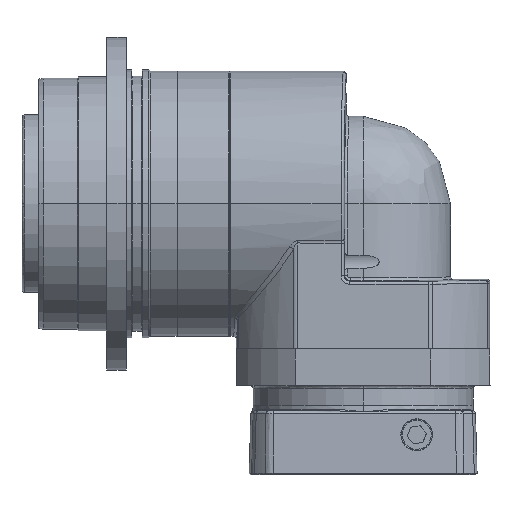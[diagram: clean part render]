
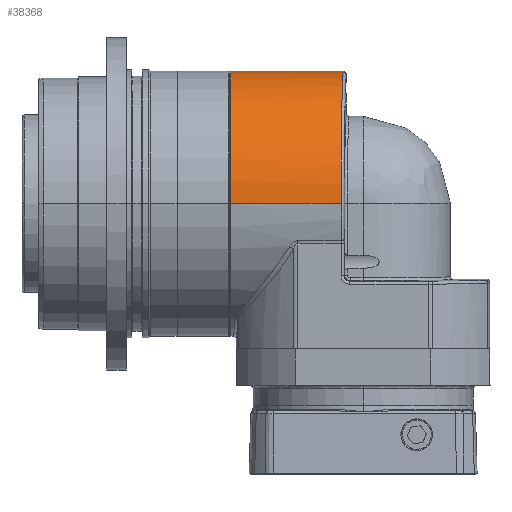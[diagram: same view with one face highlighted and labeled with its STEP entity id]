
A CAD part, top view. The second image highlights one B-rep face of the part: STEP entity #38368.
In plain terms, the highlighted cylindrical face has radius 47 mm (diameter 94 mm), a partial arc.
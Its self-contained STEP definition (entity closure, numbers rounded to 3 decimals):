
#207 = CARTESIAN_POINT ( 'NONE',  ( -28.432, 37.425, 307.64 ) ) ;
#696 = VERTEX_POINT ( 'NONE', #39823 ) ;
#833 = CARTESIAN_POINT ( 'NONE',  ( -46.608, 6.945, 307.119 ) ) ;
#868 = AXIS2_PLACEMENT_3D ( 'NONE', #52111, #47663, #3764 ) ;
#1137 = CARTESIAN_POINT ( 'NONE',  ( -19.013, 42.976, 307.734 ) ) ;
#2809 = VERTEX_POINT ( 'NONE', #42092 ) ;
#3163 = VERTEX_POINT ( 'NONE', #21685 ) ;
#3764 = DIRECTION ( 'NONE',  ( 0., 1., 0. ) ) ;
#4929 = CARTESIAN_POINT ( 'NONE',  ( 0., 46.997, 307.803 ) ) ;
#5460 = CARTESIAN_POINT ( 'NONE',  ( -34.243, -33.013, 307.564 ) ) ;
#5778 = AXIS2_PLACEMENT_3D ( 'NONE', #30676, #49937, #6649 ) ;
#5788 = EDGE_CURVE ( 'NONE', #696, #3163, #47246, .T. ) ;
#6649 = DIRECTION ( 'NONE',  ( 0., 1., 0. ) ) ;
#7909 = LINE ( 'NONE', #57212, #42192 ) ;
#9012 = CARTESIAN_POINT ( 'NONE',  ( 0., -47., 347. ) ) ;
#9566 = CARTESIAN_POINT ( 'NONE',  ( -39.009, -27.216, 307.465 ) ) ;
#9873 = CARTESIAN_POINT ( 'NONE',  ( 0., -46.997, 307.802 ) ) ;
#10913 = CARTESIAN_POINT ( 'NONE',  ( -25.523, 39.635, 307.677 ) ) ;
#11221 = CARTESIAN_POINT ( 'NONE',  ( -12.162, 45.546, 307.778 ) ) ;
#11268 = ORIENTED_EDGE ( 'NONE', *, *, #38718, .F. ) ;
#11376 = FACE_OUTER_BOUND ( 'NONE', #56641, .T. ) ;
#13501 = ORIENTED_EDGE ( 'NONE', *, *, #44721, .F. ) ;
#14606 = CARTESIAN_POINT ( 'NONE',  ( -46.999, -7.129, 307.122 ) ) ;
#15025 = CARTESIAN_POINT ( 'NONE',  ( -45.845, 10.332, 307.177 ) ) ;
#15344 = CARTESIAN_POINT ( 'NONE',  ( -38.624, 27.018, 307.462 ) ) ;
#18806 = LINE ( 'NONE', #9012, #27216 ) ;
#19275 = CARTESIAN_POINT ( 'NONE',  ( 0., -46.997, 307.802 ) ) ;
#19344 = CARTESIAN_POINT ( 'NONE',  ( -22.603, -41.851, 307.715 ) ) ;
#20089 = CARTESIAN_POINT ( 'NONE',  ( -42.222, 20.646, 307.353 ) ) ;
#20605 = CARTESIAN_POINT ( 'NONE',  ( -5.734, -46.737, 307.799 ) ) ;
#21178 = CYLINDRICAL_SURFACE ( 'NONE', #5778, 47. ) ;
#21685 = CARTESIAN_POINT ( 'NONE',  ( 0., -47., 347. ) ) ;
#23692 = VERTEX_POINT ( 'NONE', #4929 ) ;
#23779 = ORIENTED_EDGE ( 'NONE', *, *, #40684, .T. ) ;
#24536 = CARTESIAN_POINT ( 'NONE',  ( -2.873, 46.996, 307.803 ) ) ;
#24731 = CARTESIAN_POINT ( 'NONE',  ( -15.739, -44.885, 307.767 ) ) ;
#24849 = CARTESIAN_POINT ( 'NONE',  ( -47., 0., 307. ) ) ;
#27214 = DIRECTION ( 'NONE',  ( 0., 0., -1. ) ) ;
#27216 = VECTOR ( 'NONE', #62133, 1000. ) ;
#28870 = CARTESIAN_POINT ( 'NONE',  ( -47., 0., 307. ) ) ;
#29176 = CARTESIAN_POINT ( 'NONE',  ( -2.867, -46.996, 307.803 ) ) ;
#29292 = CARTESIAN_POINT ( 'NONE',  ( -40.618, 23.928, 307.409 ) ) ;
#30218 = CARTESIAN_POINT ( 'NONE',  ( -15.673, 44.454, 307.76 ) ) ;
#30676 = CARTESIAN_POINT ( 'NONE',  ( 0., 0., 347. ) ) ;
#33189 = ORIENTED_EDGE ( 'NONE', *, *, #41989, .F. ) ;
#34021 = CARTESIAN_POINT ( 'NONE',  ( 0., 46.997, 307.803 ) ) ;
#34325 = CARTESIAN_POINT ( 'NONE',  ( -22.354, 41.498, 307.709 ) ) ;
#38368 = ADVANCED_FACE ( 'NONE', ( #11376 ), #21178, .T. ) ;
#38718 = EDGE_CURVE ( 'NONE', #2809, #23692, #55279, .T. ) ;
#38729 = CARTESIAN_POINT ( 'NONE',  ( -33.986, 32.661, 307.558 ) ) ;
#39823 = CARTESIAN_POINT ( 'NONE',  ( 0., 47., 347. ) ) ;
#40684 = EDGE_CURVE ( 'NONE', #696, #23692, #7909, .T. ) ;
#41989 = EDGE_CURVE ( 'NONE', #3163, #49971, #18806, .T. ) ;
#42092 = CARTESIAN_POINT ( 'NONE',  ( -47., 0., 307. ) ) ;
#42192 = VECTOR ( 'NONE', #27214, 1000. ) ;
#43461 = CARTESIAN_POINT ( 'NONE',  ( -45.042, 13.895, 307.238 ) ) ;
#43782 = CARTESIAN_POINT ( 'NONE',  ( -43.827, 17.365, 307.297 ) ) ;
#44721 = EDGE_CURVE ( 'NONE', #49971, #2809, #56323, .T. ) ;
#47246 = CIRCLE ( 'NONE', #868, 47. ) ;
#47663 = DIRECTION ( 'NONE',  ( 0., 0., 1. ) ) ;
#48733 = CARTESIAN_POINT ( 'NONE',  ( -45.351, -14.249, 307.244 ) ) ;
#48848 = CARTESIAN_POINT ( 'NONE',  ( -31.341, 35.215, 307.602 ) ) ;
#49474 = CARTESIAN_POINT ( 'NONE',  ( -5.746, 46.736, 307.799 ) ) ;
#49937 = DIRECTION ( 'NONE',  ( 0., 0., -1. ) ) ;
#49971 = VERTEX_POINT ( 'NONE', #19275 ) ;
#52111 = CARTESIAN_POINT ( 'NONE',  ( 0., 0., 347. ) ) ;
#54235 = CARTESIAN_POINT ( 'NONE',  ( -46.999, 3.474, 307.059 ) ) ;
#55279 = B_SPLINE_CURVE_WITH_KNOTS ( 'NONE', 3,
 ( #24849, #54235, #833, #15025, #43461, #43782, #20089, #29292, #15344, #58972, #38729, #48848, #207, #10913, #34325, #1137, #30218, #11221, #59287, #49474, #24536, #34021 ),
 .UNSPECIFIED., .F., .F.,
 ( 4, 3, 3, 3, 3, 3, 3, 4 ),
 ( 0., 0.12, 0.245, 0.371, 0.497, 0.623, 0.748, 0.847 ),
 .UNSPECIFIED. ) ;
#56323 = B_SPLINE_CURVE_WITH_KNOTS ( 'NONE', 3,
 ( #9873, #29176, #20605, #24731, #19344, #5460, #9566, #48733, #14606, #28870 ),
 .UNSPECIFIED., .F., .F.,
 ( 4, 2, 2, 2, 4 ),
 ( 0.153, 0.252, 0.503, 0.755, 1. ),
 .UNSPECIFIED. ) ;
#56641 = EDGE_LOOP ( 'NONE', ( #33189, #61094, #23779, #11268, #13501 ) ) ;
#57212 = CARTESIAN_POINT ( 'NONE',  ( 0., 47., 347. ) ) ;
#58972 = CARTESIAN_POINT ( 'NONE',  ( -36.305, 29.839, 307.51 ) ) ;
#59287 = CARTESIAN_POINT ( 'NONE',  ( -8.571, 46.212, 307.79 ) ) ;
#61094 = ORIENTED_EDGE ( 'NONE', *, *, #5788, .F. ) ;
#62133 = DIRECTION ( 'NONE',  ( 0., 0., -1. ) ) ;
